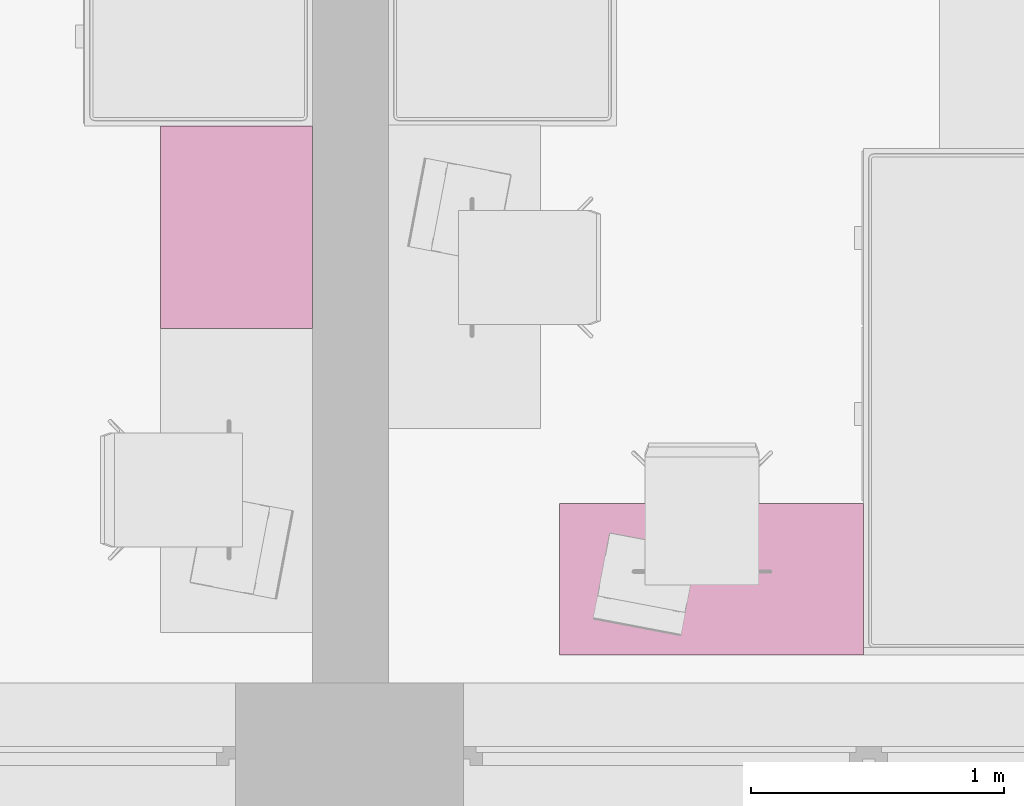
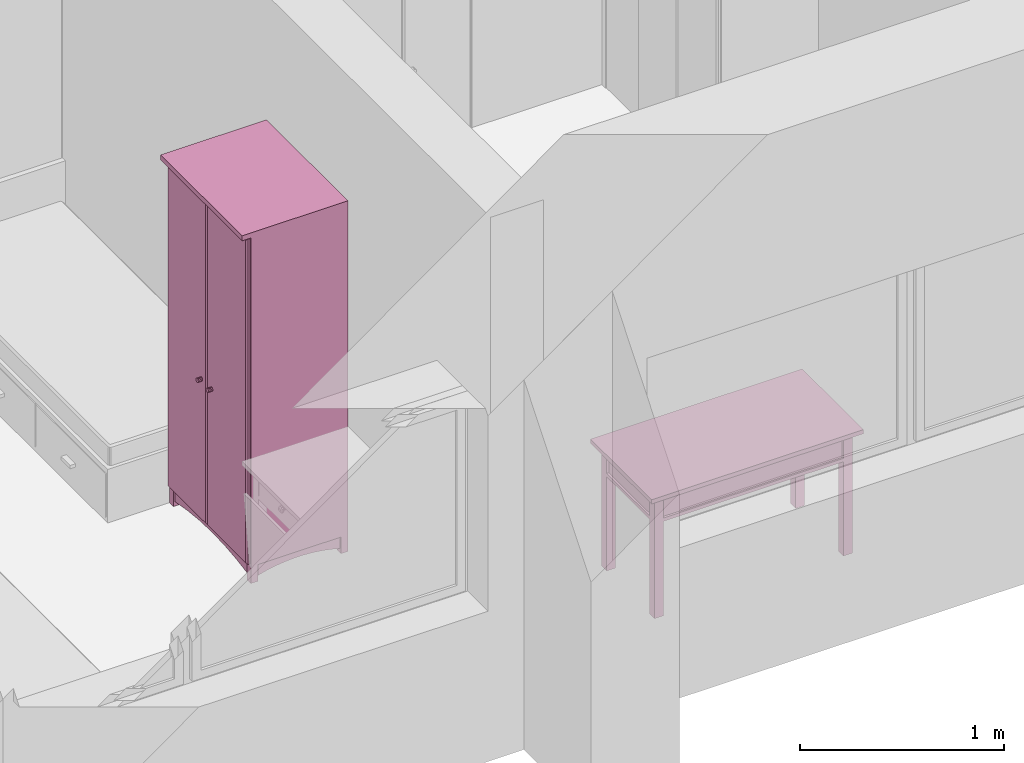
# One storey, part 121 of 165: 2 furnishings.
"""IFC2X3 building model written with IfcOpenShell, lengths in millimetres."""

from ifc_helpers import new_model, entity, si_unit, converted_unit, money_unit, direction, frame, origin_with_axes, place, context, subcontext, project, spatial, faceted_brep, source, transform, mapped, material, material_list, type_object, element, save


model = new_model("IFC2X3")

# Units and contexts
model_context = context("Model", 3, precision=1e-05, world=origin_with_axes(), true_north=direction((0.0, 1.0)))
body_context = subcontext(model_context, "Body", "Model", "MODEL_VIEW")
ifc_project = project(units=[si_unit("LENGTHUNIT", "METRE", prefix="MILLI"), si_unit("AREAUNIT", "SQUARE_METRE"), si_unit("VOLUMEUNIT", "CUBIC_METRE"), converted_unit("PLANEANGLEUNIT", "DEGREE", entity("IfcPlaneAngleMeasure", 0.0174532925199), si_unit("PLANEANGLEUNIT", "RADIAN"), dimensions=[0, 0, 0, 0, 0, 0, 0]), si_unit("SOLIDANGLEUNIT", "STERADIAN"), money_unit("USD"), converted_unit("TIMEUNIT", "Year", entity("IfcTimeMeasure", 31556926.0), si_unit("TIMEUNIT", "SECOND"), dimensions=[0, 0, 0, 0, 0, 0, 0]), si_unit("MASSUNIT", "GRAM"), si_unit("THERMODYNAMICTEMPERATUREUNIT", "DEGREE_CELSIUS"), si_unit("LUMINOUSINTENSITYUNIT", "LUMEN")], contexts=[model_context])

# Site, building, storey
site_placement = place(None, origin_with_axes())
site = spatial("IfcSite", under=ifc_project, at=site_placement, Name="Site", CompositionType="ELEMENT")
building_placement = place(site_placement, origin_with_axes())
building = spatial("IfcBuilding", under=site, at=building_placement, Name="Building", CompositionType="ELEMENT")
storey_placement = place(building_placement, frame((0.0, 0.0, 6300.0), z_axis=(0.0, 0.0, 1.0), x_axis=(1.0, 0.0, 0.0)))
storey = spatial("IfcBuildingStorey", under=building, at=storey_placement, Name="4KORRUS", CompositionType="ELEMENT", Elevation=6300.0)

# Furnishings
ifc_material = material(Name="Background")
ifc_material_list = material_list([ifc_material])
furnishing_element_type_1 = type_object("IfcFurnishingElementType", Name="Cupboard 19")
shared_shape_1 = source(origin_with_axes(), body_context, "Body", "Brep", [
    faceted_brep([(-780.0, 600.0, 120.0), (-780.0, 580.0, 120.0), (-780.0, 580.0, 2050.0), (-780.0, 600.0, 2050.0), (-20.0, 600.0, 120.0), (-20.0, 580.0, 120.0), (-20.0, 580.0, 2050.0), (-20.0, 600.0, 2050.0)], [[[0, 1, 2, 3]], [[0, 4, 5, 1]], [[1, 5, 6, 2]], [[3, 2, 6, 7]], [[4, 0, 3, 7]], [[5, 4, 7, 6]]]),
    faceted_brep([(0.0, 50.0, 100.0), (-20.0, 50.0, 100.0), (-20.0, 600.0, 100.0), (0.0, 600.0, 100.0), (0.0, 50.0, 2070.0), (-20.0, 50.0, 2070.0), (-20.0, 600.0, 2070.0), (0.0, 600.0, 2070.0)], [[[0, 1, 2, 3]], [[1, 0, 4, 5]], [[2, 1, 5, 6]], [[3, 2, 6, 7]], [[0, 3, 7, 4]], [[5, 4, 7, 6]]]),
    faceted_brep([(-780.0, 50.0, 100.0), (-800.0, 50.0, 100.0), (-800.0, 600.0, 100.0), (-780.0, 600.0, 100.0), (-780.0, 50.0, 2070.0), (-800.0, 50.0, 2070.0), (-800.0, 600.0, 2070.0), (-780.0, 600.0, 2070.0)], [[[0, 1, 2, 3]], [[1, 0, 4, 5]], [[2, 1, 5, 6]], [[3, 2, 6, 7]], [[0, 3, 7, 4]], [[5, 4, 7, 6]]]),
    faceted_brep([(-20.0, 50.0, 100.0), (-780.0, 50.0, 100.0), (-780.0, 600.0, 100.0), (-20.0, 600.0, 100.0), (-20.0, 50.0, 120.0), (-780.0, 50.0, 120.0), (-780.0, 600.0, 120.0), (-20.0, 600.0, 120.0)], [[[0, 1, 2, 3]], [[1, 0, 4, 5]], [[2, 1, 5, 6]], [[3, 2, 6, 7]], [[0, 3, 7, 4]], [[5, 4, 7, 6]]]),
    faceted_brep([(-20.0, 50.0, 2050.0), (-780.0, 50.0, 2050.0), (-780.0, 600.0, 2050.0), (-20.0, 600.0, 2050.0), (-20.0, 50.0, 2070.0), (-780.0, 50.0, 2070.0), (-780.0, 600.0, 2070.0), (-20.0, 600.0, 2070.0)], [[[0, 1, 2, 3]], [[1, 0, 4, 5]], [[2, 1, 5, 6]], [[3, 2, 6, 7]], [[0, 3, 7, 4]], [[5, 4, 7, 6]]]),
    faceted_brep([(0.0, 600.0, 2070.0), (0.0, 600.0, 2100.0), (0.0, 0.0, 2100.0), (0.0, 0.0, 2070.0), (-800.0, 600.0, 2070.0), (-800.0, 600.0, 2100.0), (-800.0, 0.0, 2100.0), (-800.0, 0.0, 2070.0)], [[[0, 1, 2, 3]], [[4, 5, 1, 0]], [[1, 5, 6, 2]], [[3, 2, 6, 7]], [[0, 3, 7, 4]], [[7, 6, 5, 4]]]),
    faceted_brep([(-760.0, 590.0, 25.0), (-640.962, 590.0, 45.8), (-640.962, 570.0, 45.8), (-760.0, 570.0, 25.0), (-760.0, 590.0, 100.0), (-40.0, 590.0, 100.0), (-40.0, 590.0, 25.0), (-159.038, 590.0, 45.8), (-279.23, 590.0, 58.32), (-400.0, 590.0, 62.5), (-520.77, 590.0, 58.32), (-520.77, 570.0, 58.32), (-400.0, 570.0, 62.5), (-279.23, 570.0, 58.32), (-159.038, 570.0, 45.8), (-40.0, 570.0, 25.0), (-40.0, 570.0, 100.0), (-760.0, 570.0, 100.0)], [[[0, 1, 2, 3]], [[0, 4, 5, 6, 7, 8, 9, 10, 1]], [[1, 10, 11, 2]], [[3, 2, 11, 12, 13, 14, 15, 16, 17]], [[4, 0, 3, 17]], [[5, 4, 17, 16]], [[6, 5, 16, 15]], [[7, 6, 15, 14]], [[8, 7, 14, 13]], [[9, 8, 13, 12]], [[10, 9, 12, 11]]]),
    faceted_brep([(-760.0, 80.0, 25.0), (-640.962, 80.0, 45.8), (-640.962, 60.0, 45.8), (-760.0, 60.0, 25.0), (-760.0, 80.0, 100.0), (-40.0, 80.0, 100.0), (-40.0, 80.0, 25.0), (-159.038, 80.0, 45.8), (-279.23, 80.0, 58.32), (-400.0, 80.0, 62.5), (-520.77, 80.0, 58.32), (-520.77, 60.0, 58.32), (-400.0, 60.0, 62.5), (-279.23, 60.0, 58.32), (-159.038, 60.0, 45.8), (-40.0, 60.0, 25.0), (-40.0, 60.0, 100.0), (-760.0, 60.0, 100.0)], [[[0, 1, 2, 3]], [[0, 4, 5, 6, 7, 8, 9, 10, 1]], [[1, 10, 11, 2]], [[3, 2, 11, 12, 13, 14, 15, 16, 17]], [[4, 0, 3, 17]], [[5, 4, 17, 16]], [[6, 5, 16, 15]], [[7, 6, 15, 14]], [[8, 7, 14, 13]], [[9, 8, 13, 12]], [[10, 9, 12, 11]]]),
    faceted_brep([(-790.0, 90.0, 25.0), (-790.0, 141.266, 38.072), (-770.0, 141.266, 38.072), (-770.0, 90.0, 25.0), (-790.0, 90.0, 100.0), (-790.0, 560.0, 100.0), (-790.0, 560.0, 25.0), (-790.0, 508.734, 38.072), (-790.0, 456.752, 47.92), (-790.0, 404.257, 54.508), (-790.0, 351.453, 57.808), (-790.0, 298.547, 57.808), (-790.0, 245.743, 54.508), (-790.0, 193.248, 47.92), (-770.0, 193.248, 47.92), (-770.0, 245.743, 54.508), (-770.0, 298.547, 57.808), (-770.0, 351.453, 57.808), (-770.0, 404.257, 54.508), (-770.0, 456.752, 47.92), (-770.0, 508.734, 38.072), (-770.0, 560.0, 25.0), (-770.0, 560.0, 100.0), (-770.0, 90.0, 100.0)], [[[0, 1, 2, 3]], [[0, 4, 5, 6, 7, 8, 9, 10, 11, 12, 13, 1]], [[1, 13, 14, 2]], [[3, 2, 14, 15, 16, 17, 18, 19, 20, 21, 22, 23]], [[4, 0, 3, 23]], [[5, 4, 23, 22]], [[6, 5, 22, 21]], [[7, 6, 21, 20]], [[8, 7, 20, 19]], [[9, 8, 19, 18]], [[10, 9, 18, 17]], [[11, 10, 17, 16]], [[12, 11, 16, 15]], [[13, 12, 15, 14]]]),
    faceted_brep([(-30.0, 90.0, 25.0), (-30.0, 141.266, 38.072), (-10.0, 141.266, 38.072), (-10.0, 90.0, 25.0), (-30.0, 90.0, 100.0), (-30.0, 560.0, 100.0), (-30.0, 560.0, 25.0), (-30.0, 508.734, 38.072), (-30.0, 456.752, 47.92), (-30.0, 404.257, 54.508), (-30.0, 351.453, 57.808), (-30.0, 298.547, 57.808), (-30.0, 245.743, 54.508), (-30.0, 193.248, 47.92), (-10.0, 193.248, 47.92), (-10.0, 245.743, 54.508), (-10.0, 298.547, 57.808), (-10.0, 351.453, 57.808), (-10.0, 404.257, 54.508), (-10.0, 456.752, 47.92), (-10.0, 508.734, 38.072), (-10.0, 560.0, 25.0), (-10.0, 560.0, 100.0), (-10.0, 90.0, 100.0)], [[[0, 1, 2, 3]], [[0, 4, 5, 6, 7, 8, 9, 10, 11, 12, 13, 1]], [[1, 13, 14, 2]], [[3, 2, 14, 15, 16, 17, 18, 19, 20, 21, 22, 23]], [[4, 0, 3, 23]], [[5, 4, 23, 22]], [[6, 5, 22, 21]], [[7, 6, 21, 20]], [[8, 7, 20, 19]], [[9, 8, 19, 18]], [[10, 9, 18, 17]], [[11, 10, 17, 16]], [[12, 11, 16, 15]], [[13, 12, 15, 14]]]),
    faceted_brep([(-760.0, 560.0, 0.0), (-760.0, 600.0, 0.0), (-760.0, 600.0, 100.0), (-760.0, 560.0, 100.0), (-800.0, 560.0, 0.0), (-800.0, 600.0, 0.0), (-800.0, 600.0, 100.0), (-800.0, 560.0, 100.0)], [[[0, 1, 2, 3]], [[0, 4, 5, 1]], [[1, 5, 6, 2]], [[3, 2, 6, 7]], [[4, 0, 3, 7]], [[5, 4, 7, 6]]]),
    faceted_brep([(0.0, 560.0, 0.0), (0.0, 600.0, 0.0), (0.0, 600.0, 100.0), (0.0, 560.0, 100.0), (-40.0, 560.0, 0.0), (-40.0, 600.0, 0.0), (-40.0, 600.0, 100.0), (-40.0, 560.0, 100.0)], [[[0, 1, 2, 3]], [[0, 4, 5, 1]], [[1, 5, 6, 2]], [[3, 2, 6, 7]], [[4, 0, 3, 7]], [[5, 4, 7, 6]]]),
    faceted_brep([(-760.0, 50.0, 0.0), (-760.0, 90.0, 0.0), (-760.0, 90.0, 100.0), (-760.0, 50.0, 100.0), (-800.0, 50.0, 0.0), (-800.0, 90.0, 0.0), (-800.0, 90.0, 100.0), (-800.0, 50.0, 100.0)], [[[0, 1, 2, 3]], [[0, 4, 5, 1]], [[1, 5, 6, 2]], [[3, 2, 6, 7]], [[4, 0, 3, 7]], [[5, 4, 7, 6]]]),
    faceted_brep([(0.0, 50.0, 0.0), (0.0, 90.0, 0.0), (0.0, 90.0, 100.0), (0.0, 50.0, 100.0), (-40.0, 50.0, 0.0), (-40.0, 90.0, 0.0), (-40.0, 90.0, 100.0), (-40.0, 50.0, 100.0)], [[[0, 1, 2, 3]], [[0, 4, 5, 1]], [[1, 5, 6, 2]], [[3, 2, 6, 7]], [[4, 0, 3, 7]], [[5, 4, 7, 6]]]),
    faceted_brep([(-780.0, 580.0, 587.5), (-780.0, 50.0, 587.5), (-780.0, 50.0, 607.5), (-780.0, 580.0, 607.5), (-20.0, 580.0, 587.5), (-20.0, 50.0, 587.5), (-20.0, 50.0, 607.5), (-20.0, 580.0, 607.5)], [[[0, 1, 2, 3]], [[0, 4, 5, 1]], [[1, 5, 6, 2]], [[3, 2, 6, 7]], [[4, 0, 3, 7]], [[5, 4, 7, 6]]]),
    faceted_brep([(-780.0, 580.0, 1075.0), (-780.0, 50.0, 1075.0), (-780.0, 50.0, 1095.0), (-780.0, 580.0, 1095.0), (-20.0, 580.0, 1075.0), (-20.0, 50.0, 1075.0), (-20.0, 50.0, 1095.0), (-20.0, 580.0, 1095.0)], [[[0, 1, 2, 3]], [[0, 4, 5, 1]], [[1, 5, 6, 2]], [[3, 2, 6, 7]], [[4, 0, 3, 7]], [[5, 4, 7, 6]]]),
    faceted_brep([(-780.0, 580.0, 1562.5), (-780.0, 50.0, 1562.5), (-780.0, 50.0, 1582.5), (-780.0, 580.0, 1582.5), (-20.0, 580.0, 1562.5), (-20.0, 50.0, 1562.5), (-20.0, 50.0, 1582.5), (-20.0, 580.0, 1582.5)], [[[0, 1, 2, 3]], [[0, 4, 5, 1]], [[1, 5, 6, 2]], [[3, 2, 6, 7]], [[4, 0, 3, 7]], [[5, 4, 7, 6]]]),
    faceted_brep([(-789.5, 50.0, 110.5), (-789.5, 50.0, 2059.5), (-400.5, 50.0, 2059.5), (-400.5, 50.0, 110.5), (-789.5, 40.0, 110.5), (-789.5, 40.0, 2059.5), (-400.5, 40.0, 2059.5), (-400.5, 40.0, 110.5), (-779.5, 30.0, 120.5), (-779.5, 30.0, 2049.5), (-410.5, 30.0, 2049.5), (-410.5, 30.0, 120.5)], [[[0, 1, 2, 3]], [[1, 0, 4, 5]], [[2, 1, 5, 6]], [[3, 2, 6, 7]], [[0, 3, 7, 4]], [[5, 4, 8, 9]], [[6, 5, 9, 10]], [[7, 6, 10, 11]], [[4, 7, 11, 8]], [[10, 9, 8, 11]]]),
    faceted_brep([(-399.5, 50.0, 110.5), (-399.5, 50.0, 2059.5), (-10.5, 50.0, 2059.5), (-10.5, 50.0, 110.5), (-399.5, 40.0, 110.5), (-399.5, 40.0, 2059.5), (-10.5, 40.0, 2059.5), (-10.5, 40.0, 110.5), (-389.5, 30.0, 120.5), (-389.5, 30.0, 2049.5), (-20.5, 30.0, 2049.5), (-20.5, 30.0, 120.5)], [[[0, 1, 2, 3]], [[1, 0, 4, 5]], [[2, 1, 5, 6]], [[3, 2, 6, 7]], [[0, 3, 7, 4]], [[5, 4, 8, 9]], [[6, 5, 9, 10]], [[7, 6, 10, 11]], [[4, 7, 11, 8]], [[10, 9, 8, 11]]]),
    faceted_brep([(-339.608, 30.0, 954.0), (-344.0, 30.0, 949.608), (-350.0, 30.0, 948.0), (-356.0, 30.0, 949.608), (-360.392, 30.0, 954.0), (-362.0, 30.0, 960.0), (-360.392, 30.0, 966.0), (-356.0, 30.0, 970.392), (-350.0, 30.0, 972.0), (-344.0, 30.0, 970.392), (-339.608, 30.0, 966.0), (-338.0, 30.0, 960.0), (-339.608, 5.0, 954.0), (-344.0, 5.0, 949.608), (-350.0, 5.0, 948.0), (-356.0, 5.0, 949.608), (-360.392, 5.0, 954.0), (-362.0, 5.0, 960.0), (-360.392, 5.0, 966.0), (-356.0, 5.0, 970.392), (-350.0, 5.0, 972.0), (-344.0, 5.0, 970.392), (-339.608, 5.0, 966.0), (-338.0, 5.0, 960.0)], [[[0, 1, 2, 3, 4, 5, 6, 7, 8, 9, 10, 11]], [[1, 0, 12, 13]], [[2, 1, 13, 14]], [[3, 2, 14, 15]], [[4, 3, 15, 16]], [[5, 4, 16, 17]], [[6, 5, 17, 18]], [[7, 6, 18, 19]], [[8, 7, 19, 20]], [[9, 8, 20, 21]], [[10, 9, 21, 22]], [[11, 10, 22, 23]], [[0, 11, 23, 12]], [[12, 23, 22, 21, 20, 19, 18, 17, 16, 15, 14, 13]]]),
    faceted_brep([(-460.392, 30.0, 954.0), (-462.0, 30.0, 960.0), (-460.392, 30.0, 966.0), (-456.0, 30.0, 970.392), (-450.0, 30.0, 972.0), (-444.0, 30.0, 970.392), (-439.608, 30.0, 966.0), (-438.0, 30.0, 960.0), (-439.608, 30.0, 954.0), (-444.0, 30.0, 949.608), (-450.0, 30.0, 948.0), (-456.0, 30.0, 949.608), (-460.392, 5.0, 954.0), (-462.0, 5.0, 960.0), (-460.392, 5.0, 966.0), (-456.0, 5.0, 970.392), (-450.0, 5.0, 972.0), (-444.0, 5.0, 970.392), (-439.608, 5.0, 966.0), (-438.0, 5.0, 960.0), (-439.608, 5.0, 954.0), (-444.0, 5.0, 949.608), (-450.0, 5.0, 948.0), (-456.0, 5.0, 949.608)], [[[0, 1, 2, 3, 4, 5, 6, 7, 8, 9, 10, 11]], [[0, 12, 13, 1]], [[1, 13, 14, 2]], [[2, 14, 15, 3]], [[3, 15, 16, 4]], [[4, 16, 17, 5]], [[5, 17, 18, 6]], [[6, 18, 19, 7]], [[7, 19, 20, 8]], [[8, 20, 21, 9]], [[9, 21, 22, 10]], [[10, 22, 23, 11]], [[11, 23, 12, 0]], [[12, 23, 22, 21, 20, 19, 18, 17, 16, 15, 14, 13]]]),
])
furnishing_1_placement = place(storey_placement, frame((5109.70329669, -18239.2398994, 0.0), z_axis=(0.0, 0.0, 1.0), x_axis=(0.0, -1.0, 0.0)))
element("IfcFurnishingElement", 1, at=furnishing_1_placement, inside=storey, type_object=furnishing_element_type_1, material=ifc_material_list, Name="FU - 014", context=body_context, shape_type="MappedRepresentation", body=[
    mapped(shared_shape_1, transform((0.0, 0.0, 0.0))),
])
furnishing_element_type_2 = type_object("IfcFurnishingElementType", Name="Rectangular Table 01 19")
shared_shape_2 = source(origin_with_axes(), body_context, "Body", "Brep", [
    faceted_brep([(-90.0, 40.0, 0.0), (-90.0, 90.0, 0.0), (-40.0, 90.0, 0.0), (-40.0, 40.0, 0.0), (-90.0, 40.0, 725.0), (-90.0, 90.0, 725.0), (-40.0, 90.0, 725.0), (-40.0, 40.0, 725.0)], [[[0, 1, 2, 3]], [[0, 4, 5, 1]], [[1, 5, 6, 2]], [[2, 6, 7, 3]], [[3, 7, 4, 0]], [[7, 6, 5, 4]]]),
    faceted_brep([(-1160.0, 40.0, 0.0), (-1160.0, 90.0, 0.0), (-1110.0, 90.0, 0.0), (-1110.0, 40.0, 0.0), (-1160.0, 40.0, 725.0), (-1160.0, 90.0, 725.0), (-1110.0, 90.0, 725.0), (-1110.0, 40.0, 725.0)], [[[0, 1, 2, 3]], [[0, 4, 5, 1]], [[1, 5, 6, 2]], [[2, 6, 7, 3]], [[3, 7, 4, 0]], [[7, 6, 5, 4]]]),
    faceted_brep([(-90.0, 510.0, 0.0), (-90.0, 560.0, 0.0), (-40.0, 560.0, 0.0), (-40.0, 510.0, 0.0), (-90.0, 510.0, 725.0), (-90.0, 560.0, 725.0), (-40.0, 560.0, 725.0), (-40.0, 510.0, 725.0)], [[[0, 1, 2, 3]], [[0, 4, 5, 1]], [[1, 5, 6, 2]], [[2, 6, 7, 3]], [[3, 7, 4, 0]], [[7, 6, 5, 4]]]),
    faceted_brep([(-1160.0, 510.0, 0.0), (-1160.0, 560.0, 0.0), (-1110.0, 560.0, 0.0), (-1110.0, 510.0, 0.0), (-1160.0, 510.0, 725.0), (-1160.0, 560.0, 725.0), (-1110.0, 560.0, 725.0), (-1110.0, 510.0, 725.0)], [[[0, 1, 2, 3]], [[0, 4, 5, 1]], [[1, 5, 6, 2]], [[2, 6, 7, 3]], [[3, 7, 4, 0]], [[7, 6, 5, 4]]]),
    faceted_brep([(-1160.0, 40.0, 565.0), (-1160.0, 560.0, 565.0), (-40.0, 560.0, 565.0), (-40.0, 40.0, 565.0), (-1160.0, 40.0, 585.0), (-1160.0, 560.0, 585.0), (-40.0, 560.0, 585.0), (-40.0, 40.0, 585.0)], [[[0, 1, 2, 3]], [[0, 4, 5, 1]], [[1, 5, 6, 2]], [[2, 6, 7, 3]], [[3, 7, 4, 0]], [[7, 6, 5, 4]]]),
    faceted_brep([(-1110.0, 52.5, 585.0), (-1110.0, 77.5, 585.0), (-90.0, 77.5, 585.0), (-90.0, 52.5, 585.0), (-1110.0, 52.5, 745.0), (-1110.0, 77.5, 745.0), (-90.0, 77.5, 745.0), (-90.0, 52.5, 745.0)], [[[0, 1, 2, 3]], [[0, 4, 5, 1]], [[1, 5, 6, 2]], [[2, 6, 7, 3]], [[3, 7, 4, 0]], [[7, 6, 5, 4]]]),
    faceted_brep([(-77.5, 90.0, 585.0), (-77.5, 510.0, 585.0), (-52.5, 510.0, 585.0), (-52.5, 90.0, 585.0), (-77.5, 90.0, 745.0), (-77.5, 510.0, 745.0), (-52.5, 510.0, 745.0), (-52.5, 90.0, 745.0)], [[[0, 1, 2, 3]], [[0, 4, 5, 1]], [[1, 5, 6, 2]], [[2, 6, 7, 3]], [[3, 7, 4, 0]], [[7, 6, 5, 4]]]),
    faceted_brep([(-90.0, 547.5, 585.0), (-90.0, 522.5, 585.0), (-1110.0, 522.5, 585.0), (-1110.0, 547.5, 585.0), (-90.0, 547.5, 745.0), (-90.0, 522.5, 745.0), (-1110.0, 522.5, 745.0), (-1110.0, 547.5, 745.0)], [[[0, 1, 2, 3]], [[0, 4, 5, 1]], [[1, 5, 6, 2]], [[2, 6, 7, 3]], [[3, 7, 4, 0]], [[7, 6, 5, 4]]]),
    faceted_brep([(-1122.5, 510.0, 585.0), (-1122.5, 90.0, 585.0), (-1147.5, 90.0, 585.0), (-1147.5, 510.0, 585.0), (-1122.5, 510.0, 745.0), (-1122.5, 90.0, 745.0), (-1147.5, 90.0, 745.0), (-1147.5, 510.0, 745.0)], [[[0, 1, 2, 3]], [[0, 4, 5, 1]], [[1, 5, 6, 2]], [[2, 6, 7, 3]], [[3, 7, 4, 0]], [[7, 6, 5, 4]]]),
    faceted_brep([(-597.5, 40.0, 585.0), (-597.5, 60.0, 585.0), (-95.0, 60.0, 585.0), (-95.0, 40.0, 585.0), (-597.5, 40.0, 745.0), (-597.5, 60.0, 745.0), (-95.0, 60.0, 745.0), (-95.0, 40.0, 745.0)], [[[0, 1, 2, 3]], [[0, 4, 5, 1]], [[1, 5, 6, 2]], [[2, 6, 7, 3]], [[3, 7, 4, 0]], [[7, 6, 5, 4]]]),
    faceted_brep([(-1105.0, 40.0, 585.0), (-1105.0, 60.0, 585.0), (-602.5, 60.0, 585.0), (-602.5, 40.0, 585.0), (-1105.0, 40.0, 745.0), (-1105.0, 60.0, 745.0), (-602.5, 60.0, 745.0), (-602.5, 40.0, 745.0)], [[[0, 1, 2, 3]], [[0, 4, 5, 1]], [[1, 5, 6, 2]], [[2, 6, 7, 3]], [[3, 7, 4, 0]], [[7, 6, 5, 4]]]),
    faceted_brep([(-354.91, 40.0, 660.0), (-356.25, 40.0, 665.0), (-354.91, 40.0, 670.0), (-351.25, 40.0, 673.66), (-346.25, 40.0, 675.0), (-341.25, 40.0, 673.66), (-337.59, 40.0, 670.0), (-336.25, 40.0, 665.0), (-337.59, 40.0, 660.0), (-341.25, 40.0, 656.34), (-346.25, 40.0, 655.0), (-351.25, 40.0, 656.34), (-354.91, 25.0, 660.0), (-356.25, 25.0, 665.0), (-354.91, 25.0, 670.0), (-351.25, 25.0, 673.66), (-346.25, 25.0, 675.0), (-341.25, 25.0, 673.66), (-337.59, 25.0, 670.0), (-336.25, 25.0, 665.0), (-337.59, 25.0, 660.0), (-341.25, 25.0, 656.34), (-346.25, 25.0, 655.0), (-351.25, 25.0, 656.34)], [[[0, 1, 2, 3, 4, 5, 6, 7, 8, 9, 10, 11]], [[0, 12, 13, 1]], [[1, 13, 14, 2]], [[2, 14, 15, 3]], [[3, 15, 16, 4]], [[4, 16, 17, 5]], [[5, 17, 18, 6]], [[6, 18, 19, 7]], [[7, 19, 20, 8]], [[8, 20, 21, 9]], [[9, 21, 22, 10]], [[10, 22, 23, 11]], [[11, 23, 12, 0]], [[12, 23, 22, 21, 20, 19, 18, 17, 16, 15, 14, 13]]]),
    faceted_brep([(-356.25, 12.01, 665.0), (-354.91, 12.01, 660.0), (-346.25, 10.0, 665.0), (-363.571, 17.5, 665.0), (-361.25, 17.5, 656.34), (-351.25, 12.01, 656.34), (-354.91, 12.01, 670.0), (-366.25, 25.0, 665.0), (-363.571, 25.0, 655.0), (-354.91, 17.5, 650.0), (-361.25, 17.5, 673.66), (-346.25, 12.01, 655.0), (-351.25, 12.01, 673.66), (-363.571, 25.0, 675.0), (-356.25, 25.0, 682.321), (-346.25, 25.0, 685.0), (-336.25, 25.0, 682.321), (-328.929, 25.0, 675.0), (-326.25, 25.0, 665.0), (-328.929, 25.0, 655.0), (-336.25, 25.0, 647.679), (-346.25, 25.0, 645.0), (-356.25, 25.0, 647.679), (-346.25, 17.5, 647.679), (-354.91, 17.5, 680.0), (-341.25, 12.01, 656.34), (-346.25, 12.01, 675.0), (-346.25, 17.5, 682.321), (-337.59, 17.5, 680.0), (-331.25, 17.5, 673.66), (-328.929, 17.5, 665.0), (-331.25, 17.5, 656.34), (-337.59, 17.5, 650.0), (-337.59, 12.01, 660.0), (-341.25, 12.01, 673.66), (-337.59, 12.01, 670.0), (-336.25, 12.01, 665.0)], [[[0, 1, 2]], [[3, 4, 1, 0]], [[1, 5, 2]], [[6, 0, 2]], [[7, 8, 4, 3]], [[4, 9, 5, 1]], [[10, 3, 0, 6]], [[5, 11, 2]], [[12, 6, 2]], [[8, 7, 13, 14, 15, 16, 17, 18, 19, 20, 21, 22]], [[8, 22, 9, 4]], [[13, 7, 3, 10]], [[9, 23, 11, 5]], [[24, 10, 6, 12]], [[11, 25, 2]], [[26, 12, 2]], [[14, 13, 10, 24]], [[15, 14, 24, 27]], [[16, 15, 27, 28]], [[17, 16, 28, 29]], [[18, 17, 29, 30]], [[19, 18, 30, 31]], [[20, 19, 31, 32]], [[21, 20, 32, 23]], [[22, 21, 23, 9]], [[23, 32, 25, 11]], [[27, 24, 12, 26]], [[25, 33, 2]], [[34, 26, 2]], [[28, 27, 26, 34]], [[29, 28, 34, 35]], [[30, 29, 35, 36]], [[31, 30, 36, 33]], [[32, 31, 33, 25]], [[33, 36, 2]], [[35, 34, 2]], [[36, 35, 2]]]),
    faceted_brep([(-862.41, 40.0, 660.0), (-863.75, 40.0, 665.0), (-862.41, 40.0, 670.0), (-858.75, 40.0, 673.66), (-853.75, 40.0, 675.0), (-848.75, 40.0, 673.66), (-845.09, 40.0, 670.0), (-843.75, 40.0, 665.0), (-845.09, 40.0, 660.0), (-848.75, 40.0, 656.34), (-853.75, 40.0, 655.0), (-858.75, 40.0, 656.34), (-862.41, 25.0, 660.0), (-863.75, 25.0, 665.0), (-862.41, 25.0, 670.0), (-858.75, 25.0, 673.66), (-853.75, 25.0, 675.0), (-848.75, 25.0, 673.66), (-845.09, 25.0, 670.0), (-843.75, 25.0, 665.0), (-845.09, 25.0, 660.0), (-848.75, 25.0, 656.34), (-853.75, 25.0, 655.0), (-858.75, 25.0, 656.34)], [[[0, 1, 2, 3, 4, 5, 6, 7, 8, 9, 10, 11]], [[0, 12, 13, 1]], [[1, 13, 14, 2]], [[2, 14, 15, 3]], [[3, 15, 16, 4]], [[4, 16, 17, 5]], [[5, 17, 18, 6]], [[6, 18, 19, 7]], [[7, 19, 20, 8]], [[8, 20, 21, 9]], [[9, 21, 22, 10]], [[10, 22, 23, 11]], [[11, 23, 12, 0]], [[12, 23, 22, 21, 20, 19, 18, 17, 16, 15, 14, 13]]]),
    faceted_brep([(-863.75, 12.01, 665.0), (-862.41, 12.01, 660.0), (-853.75, 10.0, 665.0), (-871.071, 17.5, 665.0), (-868.75, 17.5, 656.34), (-858.75, 12.01, 656.34), (-862.41, 12.01, 670.0), (-873.75, 25.0, 665.0), (-871.071, 25.0, 655.0), (-862.41, 17.5, 650.0), (-868.75, 17.5, 673.66), (-853.75, 12.01, 655.0), (-858.75, 12.01, 673.66), (-871.071, 25.0, 675.0), (-863.75, 25.0, 682.321), (-853.75, 25.0, 685.0), (-843.75, 25.0, 682.321), (-836.429, 25.0, 675.0), (-833.75, 25.0, 665.0), (-836.429, 25.0, 655.0), (-843.75, 25.0, 647.679), (-853.75, 25.0, 645.0), (-863.75, 25.0, 647.679), (-853.75, 17.5, 647.679), (-862.41, 17.5, 680.0), (-848.75, 12.01, 656.34), (-853.75, 12.01, 675.0), (-853.75, 17.5, 682.321), (-845.09, 17.5, 680.0), (-838.75, 17.5, 673.66), (-836.429, 17.5, 665.0), (-838.75, 17.5, 656.34), (-845.09, 17.5, 650.0), (-845.09, 12.01, 660.0), (-848.75, 12.01, 673.66), (-845.09, 12.01, 670.0), (-843.75, 12.01, 665.0)], [[[0, 1, 2]], [[3, 4, 1, 0]], [[1, 5, 2]], [[6, 0, 2]], [[7, 8, 4, 3]], [[4, 9, 5, 1]], [[10, 3, 0, 6]], [[5, 11, 2]], [[12, 6, 2]], [[8, 7, 13, 14, 15, 16, 17, 18, 19, 20, 21, 22]], [[8, 22, 9, 4]], [[13, 7, 3, 10]], [[9, 23, 11, 5]], [[24, 10, 6, 12]], [[11, 25, 2]], [[26, 12, 2]], [[14, 13, 10, 24]], [[15, 14, 24, 27]], [[16, 15, 27, 28]], [[17, 16, 28, 29]], [[18, 17, 29, 30]], [[19, 18, 30, 31]], [[20, 19, 31, 32]], [[21, 20, 32, 23]], [[22, 21, 23, 9]], [[23, 32, 25, 11]], [[27, 24, 12, 26]], [[25, 33, 2]], [[34, 26, 2]], [[28, 27, 26, 34]], [[29, 28, 34, 35]], [[30, 29, 35, 36]], [[31, 30, 36, 33]], [[32, 31, 33, 25]], [[33, 36, 2]], [[35, 34, 2]], [[36, 35, 2]]]),
    faceted_brep([(-1200.0, 0.0, 725.0), (-1200.0, 600.0, 725.0), (0.0, 600.0, 725.0), (0.0, 0.0, 725.0), (-1200.0, 0.0, 750.0), (-1200.0, 600.0, 750.0), (0.0, 600.0, 750.0), (0.0, 0.0, 750.0)], [[[0, 1, 2, 3]], [[0, 4, 5, 1]], [[1, 5, 6, 2]], [[2, 6, 7, 3]], [[3, 7, 4, 0]], [[7, 6, 5, 4]]]),
])
furnishing_2_placement = place(storey_placement, frame((6684.70329669, -18929.2398994, 0.0), z_axis=(0.0, 0.0, 1.0), x_axis=(-1.0, 0.0, 0.0)))
element("IfcFurnishingElement", 2, at=furnishing_2_placement, inside=storey, type_object=furnishing_element_type_2, material=ifc_material_list, Name="FU - 011", context=body_context, shape_type="MappedRepresentation", body=[
    mapped(shared_shape_2, transform((0.0, 0.0, 0.0))),
])

save(model, "model.ifc")
